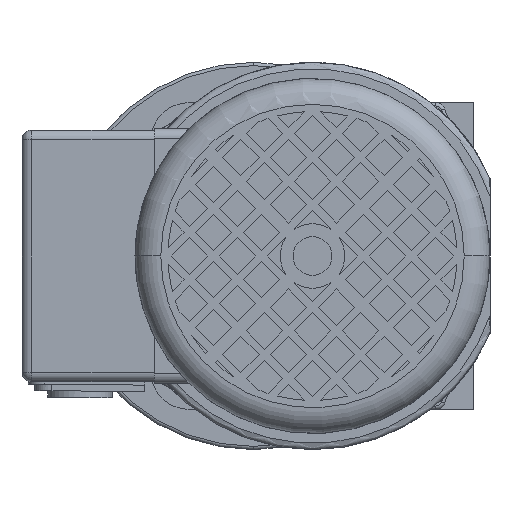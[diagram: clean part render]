
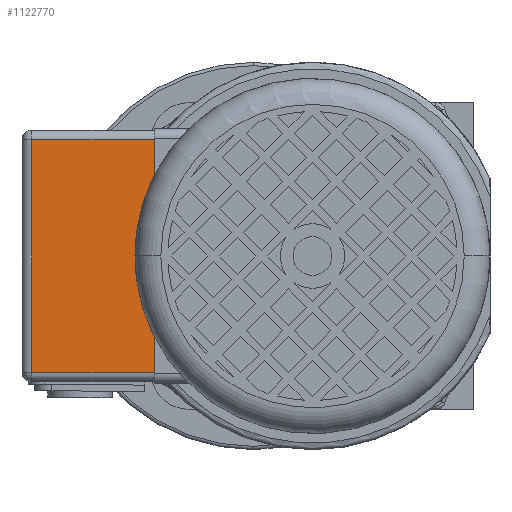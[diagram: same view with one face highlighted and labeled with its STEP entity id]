
A CAD part, left-side view. The second image highlights one B-rep face of the part: STEP entity #1122770.
In plain terms, the highlighted planar face has unit normal (-1, 0, 0) as drawn and (0, 0, -1) by its records, which use the part's own axes.
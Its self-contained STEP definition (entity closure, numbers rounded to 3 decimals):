
#1079870=CARTESIAN_POINT('',(87.,36.,-82.));
#1079880=VERTEX_POINT('',#1079870);
#1100820=CARTESIAN_POINT('',(49.,-36.,-82.));
#1100830=VERTEX_POINT('',#1100820);
#1100860=CARTESIAN_POINT('',(49.,0.,-82.));
#1100870=DIRECTION('',(0.,1.,0.));
#1100880=VECTOR('',#1100870,1.);
#1100890=LINE('',#1100860,#1100880);
#1100900=CARTESIAN_POINT('',(49.,36.,-82.));
#1100910=VERTEX_POINT('',#1100900);
#1100920=EDGE_CURVE('',#1100830,#1100910,#1100890,.T.);
#1122490=CARTESIAN_POINT('',(49.,0.,-82.));
#1122500=DIRECTION('',(0.,0.,-1.));
#1122510=DIRECTION('',(-1.,0.,0.));
#1122520=AXIS2_PLACEMENT_3D('',#1122490,#1122500,#1122510);
#1122530=PLANE('',#1122520);
#1122540=CARTESIAN_POINT('',(87.,0.,-82.));
#1122550=DIRECTION('',(0.,-1.,0.));
#1122560=VECTOR('',#1122550,1.);
#1122570=LINE('',#1122540,#1122560);
#1122580=CARTESIAN_POINT('',(87.,-36.,-82.));
#1122590=VERTEX_POINT('',#1122580);
#1122600=EDGE_CURVE('',#1079880,#1122590,#1122570,.T.);
#1122610=ORIENTED_EDGE('',*,*,#1122600,.T.);
#1122620=CARTESIAN_POINT('',(52.,36.,-82.));
#1122630=DIRECTION('',(1.,0.,0.));
#1122640=VECTOR('',#1122630,1.);
#1122650=LINE('',#1122620,#1122640);
#1122660=EDGE_CURVE('',#1100910,#1079880,#1122650,.T.);
#1122670=ORIENTED_EDGE('',*,*,#1122660,.T.);
#1122680=ORIENTED_EDGE('',*,*,#1100920,.T.);
#1122690=CARTESIAN_POINT('',(52.,-36.,-82.));
#1122700=DIRECTION('',(1.,0.,0.));
#1122710=VECTOR('',#1122700,1.);
#1122720=LINE('',#1122690,#1122710);
#1122730=EDGE_CURVE('',#1100830,#1122590,#1122720,.T.);
#1122740=ORIENTED_EDGE('',*,*,#1122730,.F.);
#1122750=EDGE_LOOP('',(#1122740,#1122680,#1122670,#1122610));
#1122760=FACE_OUTER_BOUND('',#1122750,.T.);
#1122770=ADVANCED_FACE('',(#1122760),#1122530,.T.);
